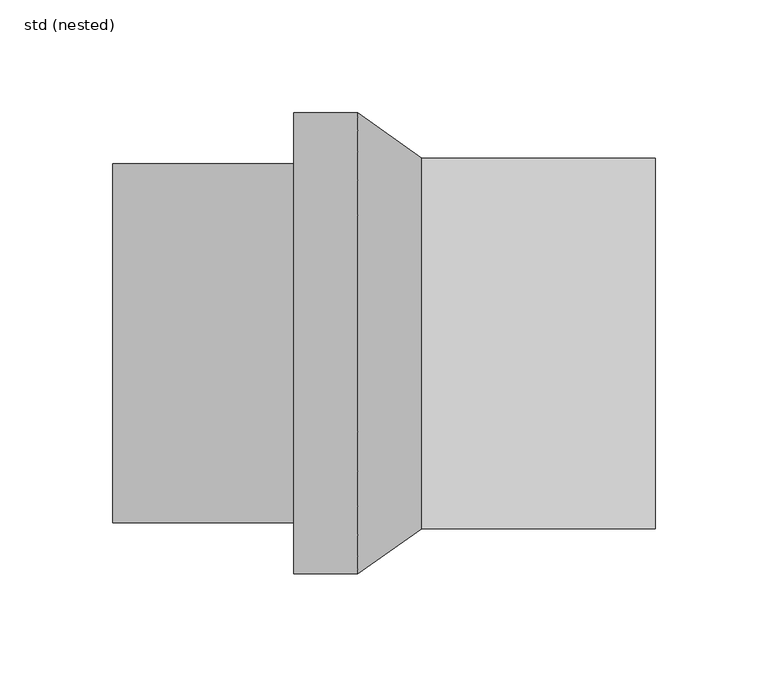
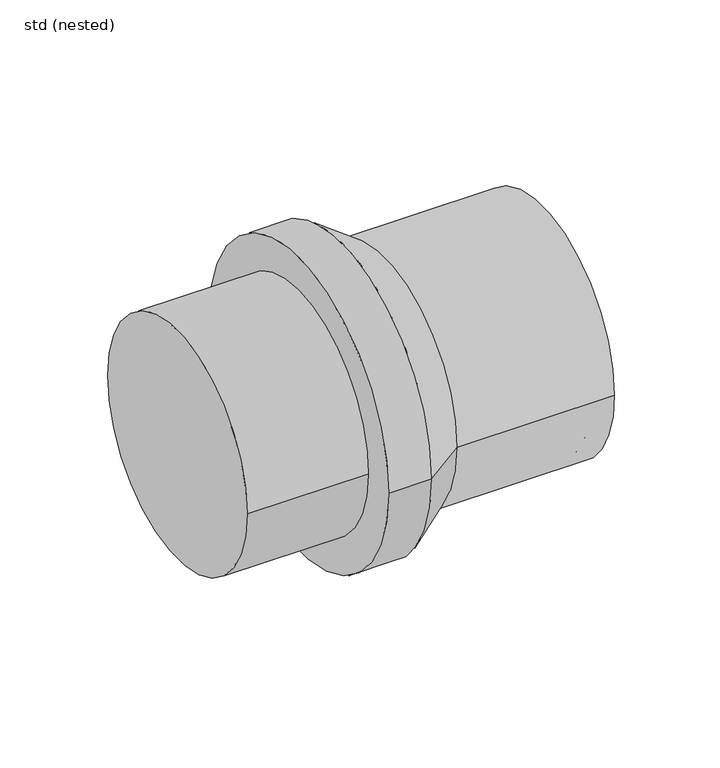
"""IFC4 building model written with IfcOpenShell, lengths in millimetres: pipe fitting geometry, ZZZ_do not use_PIF_ST_WPB_GM-X compound pipe reducer_ACO : std (nested)."""

from ifc_helpers import new_model, si_unit, point, frame, origin, origin_2d, place, context, project, spatial, polyline, circle_curve, trimmed, segment, composite_curve, outline, extrude, source, transform, mapped, element, save
from ifc_brep_helpers import plane_surface, cylinder_surface, revolved_surface, advanced_brep


def std_nested_dd37de27(model_context):
    return source(origin(), model_context, "Body", "SolidModel", [
        advanced_brep(
        [(231.6, 76.0, 0.0), (231.6, -76.0, 0.0), (200.0, -76.0, 0.0), (200.0, 76.0, 0.0), (240.0, -70.0, 0.0), (240.0, 70.0, 0.0), (240.0, 66.5, 0.0), (240.0, -66.5, 0.0), (165.0, -70.0, 0.0), (165.0, 70.0, 0.0), (165.0, -66.5, 0.0), (165.0, 66.5, 0.0), (231.6, -70.0, 0.0), (231.6, 70.0, 0.0), (200.0, 70.0, 0.0), (200.0, -70.0, 0.0)],
        [
            (0, 1, circle_curve(frame((231.6, 0.0, 0.0), z_axis=(-1.0, 0.0, 0.0), x_axis=(0.0, 1.0, 0.0)), 76.0)),
            (1, 2),
            (2, 3, circle_curve(frame((200.0, 0.0, 0.0), z_axis=(1.0, 0.0, 0.0), x_axis=(0.0, 1.0, 0.0)), 76.0)),
            (3, 0),
            (1, 0, circle_curve(frame((231.6, 0.0, 0.0), z_axis=(-1.0, 0.0, 0.0), x_axis=(0.0, 1.0, 0.0)), 76.0)),
            (3, 2, circle_curve(frame((200.0, 0.0, 0.0), z_axis=(1.0, 0.0, 0.0), x_axis=(0.0, 1.0, 0.0)), 76.0)),
            (4, 5, circle_curve(frame((240.0, 0.0, 0.0), z_axis=(1.0, 0.0, 0.0), x_axis=(0.0, 1.0, 0.0)), 70.0)),
            (5, 4, circle_curve(frame((240.0, 0.0, 0.0), z_axis=(1.0, 0.0, 0.0), x_axis=(0.0, 1.0, 0.0)), 70.0)),
            (6, 7, circle_curve(frame((240.0, 0.0, 0.0), z_axis=(-1.0, 0.0, 0.0), x_axis=(0.0, 1.0, 0.0)), 66.5)),
            (7, 6, circle_curve(frame((240.0, 0.0, 0.0), z_axis=(-1.0, 0.0, 0.0), x_axis=(0.0, 1.0, 0.0)), 66.5)),
            (8, 9, circle_curve(frame((165.0, 0.0, 0.0), z_axis=(-1.0, 0.0, 0.0), x_axis=(0.0, 1.0, 0.0)), 70.0)),
            (9, 8, circle_curve(frame((165.0, 0.0, 0.0), z_axis=(-1.0, 0.0, 0.0), x_axis=(0.0, 1.0, 0.0)), 70.0)),
            (10, 11, circle_curve(frame((165.0, 0.0, 0.0), z_axis=(1.0, 0.0, 0.0), x_axis=(0.0, 1.0, 0.0)), 66.5)),
            (11, 10, circle_curve(frame((165.0, 0.0, 0.0), z_axis=(1.0, 0.0, 0.0), x_axis=(0.0, 1.0, 0.0)), 66.5)),
            (4, 12),
            (12, 13, circle_curve(frame((231.6, 0.0, 0.0), z_axis=(1.0, 0.0, 0.0), x_axis=(0.0, 1.0, 0.0)), 70.0)),
            (13, 5),
            (9, 14),
            (14, 15, circle_curve(frame((200.0, 0.0, 0.0), z_axis=(-1.0, 0.0, 0.0), x_axis=(0.0, 1.0, 0.0)), 70.0)),
            (15, 8),
            (13, 12, circle_curve(frame((231.6, 0.0, 0.0), z_axis=(1.0, 0.0, 0.0), x_axis=(0.0, 1.0, 0.0)), 70.0)),
            (15, 14, circle_curve(frame((200.0, 0.0, 0.0), z_axis=(-1.0, 0.0, 0.0), x_axis=(0.0, 1.0, 0.0)), 70.0)),
            (6, 11),
            (10, 7),
        ],
        [
            cylinder_surface(frame((200.0, 0.0, 0.0), z_axis=(1.0, 0.0, 0.0), x_axis=(0.0, 1.0, 0.0)), 76.0),
            plane_surface(frame((240.0, 70.0, 0.0), z_axis=(1.0, 0.0, 0.0), x_axis=(0.0, 0.0, 1.0))),
            plane_surface(frame((165.0, 70.0, 0.0), z_axis=(-1.0, 0.0, 0.0), x_axis=(0.0, 0.0, -1.0))),
            cylinder_surface(frame((165.0, 0.0, 0.0), z_axis=(1.0, 0.0, 0.0), x_axis=(0.0, 1.0, 0.0)), 70.0),
            revolved_surface(polyline([(240.0, 66.5, 0.0), (165.0, 66.5, 0.0)]), (165.0, 0.0, 0.0), (1.0, 0.0, 0.0)),
            plane_surface(frame((231.6, 76.0, 0.0), z_axis=(1.0, 0.0, 0.0), x_axis=(0.0, 0.0, 1.0))),
            plane_surface(frame((200.0, 76.0, 0.0), z_axis=(-1.0, 0.0, 0.0), x_axis=(0.0, 0.0, -1.0))),
        ],
        [
            (0, [[1, 2, 3, 4]]),
            (0, [[5, -4, 6, -2]]),
            (1, [[7, 8], [9, 10]]),
            (2, [[11, 12], [13, 14]]),
            (3, [[-7, 15, 16, 17]]),
            (3, [[-12, 18, 19, 20]]),
            (3, [[-8, -17, 21, -15]]),
            (3, [[-11, -20, 22, -18]]),
            (4, [[23, -13, 24, -9]]),
            (4, [[-23, -10, -24, -14]]),
            (5, [[-1, -5], [-16, -21]]),
            (6, [[-6, -3], [-19, -22]]),
        ],
    ),
        advanced_brep(
        [(240.0, 82.0, 0.0), (240.0, -82.0, 0.0), (240.0, -70.0, 0.0), (240.0, 70.0, 0.0), (136.6666667, 82.0, 0.0), (136.6666667, -82.0, 0.0), (165.0, 70.0, 0.0), (165.0, -70.0, 0.0), (108.3333333, 102.0, 0.0), (108.3333333, -102.0, 0.0), (80.0, -102.0, 0.0), (80.0, 102.0, 0.0)],
        [
            (0, 1, circle_curve(frame((240.0, 0.0, 0.0), z_axis=(1.0, 0.0, 0.0), x_axis=(0.0, -1.0, 0.0)), 82.0)),
            (1, 0, circle_curve(frame((240.0, 0.0, 0.0), z_axis=(1.0, 0.0, 0.0), x_axis=(0.0, -1.0, 0.0)), 82.0)),
            (2, 3, circle_curve(frame((240.0, 0.0, 0.0), z_axis=(-1.0, 0.0, 0.0), x_axis=(0.0, -1.0, 0.0)), 70.0)),
            (3, 2, circle_curve(frame((240.0, 0.0, 0.0), z_axis=(-1.0, 0.0, 0.0), x_axis=(0.0, -1.0, 0.0)), 70.0)),
            (0, 4),
            (4, 5, circle_curve(frame((136.6666667, 0.0, 0.0), z_axis=(1.0, 0.0, 0.0), x_axis=(0.0, -1.0, 0.0)), 82.0)),
            (5, 1),
            (5, 4, circle_curve(frame((136.6666667, 0.0, 0.0), z_axis=(1.0, 0.0, 0.0), x_axis=(0.0, -1.0, 0.0)), 82.0)),
            (6, 7, circle_curve(frame((165.0, 0.0, 0.0), z_axis=(1.0, 0.0, 0.0), x_axis=(0.0, -1.0, 0.0)), 70.0)),
            (7, 6, circle_curve(frame((165.0, 0.0, 0.0), z_axis=(1.0, 0.0, 0.0), x_axis=(0.0, -1.0, 0.0)), 70.0)),
            (6, 3),
            (2, 7),
            (8, 4),
            (5, 9),
            (9, 8, circle_curve(frame((108.3333333, 0.0, 0.0), z_axis=(1.0, 0.0, 0.0), x_axis=(0.0, -1.0, 0.0)), 102.0)),
            (8, 9, circle_curve(frame((108.3333333, 0.0, 0.0), z_axis=(1.0, 0.0, 0.0), x_axis=(0.0, 1.0, 0.0)), 102.0)),
            (10, 11, circle_curve(frame((80.0, 0.0, 0.0), z_axis=(-1.0, 0.0, 0.0), x_axis=(0.0, 1.0, 0.0)), 102.0)),
            (11, 10, circle_curve(frame((80.0, 0.0, 0.0), z_axis=(-1.0, 0.0, 0.0), x_axis=(0.0, 1.0, 0.0)), 102.0)),
            (10, 9),
            (8, 11),
        ],
        [
            plane_surface(frame((240.0, -82.0, 0.0), z_axis=(1.0, 0.0, 0.0), x_axis=(0.0, 0.0, -1.0))),
            cylinder_surface(frame((136.6666667, 0.0, 0.0), z_axis=(1.0, 0.0, 0.0), x_axis=(0.0, -1.0, 0.0)), 82.0),
            plane_surface(frame((165.0, -70.0, 0.0), z_axis=(1.0, 0.0, 0.0), x_axis=(0.0, 0.0, 1.0))),
            revolved_surface(polyline([(240.0, -70.0, 0.0), (165.0, -70.0, 0.0)]), (165.0, 0.0, 0.0), (1.0, 0.0, 0.0)),
            revolved_surface(polyline([(136.6666667, 81.99999995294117, 0.0), (108.33333329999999, 102.0, 0.0)]), (252.8333333, 0.0, 0.0), (-1.0, 0.0, 0.0)),
            plane_surface(frame((80.0, 102.0, 0.0), z_axis=(-1.0, 0.0, 0.0), x_axis=(0.0, 0.0, -1.0))),
            cylinder_surface(frame((108.3333333, 0.0, 0.0), z_axis=(-1.0, 0.0, 0.0), x_axis=(0.0, 1.0, 0.0)), 102.0),
        ],
        [
            (0, [[1, 2], [3, 4]]),
            (1, [[-1, 5, 6, 7]]),
            (1, [[-2, -7, 8, -5]]),
            (2, [[9, 10]]),
            (3, [[-9, 11, -3, 12]]),
            (3, [[-10, -12, -4, -11]]),
            (4, [[13, -8, 14, 15]]),
            (4, [[-13, 16, -14, -6]]),
            (5, [[17, 18]]),
            (6, [[-17, 19, -16, 20]]),
            (6, [[-18, -20, -15, -19]]),
        ],
    ),
        extrude(outline(composite_curve([segment(trimmed(circle_curve(origin_2d(), 79.5), [point((-79.5, 0.0))], [point((79.5, 0.0))], False, "CARTESIAN"), True, "CONTINUOUS"), segment(trimmed(circle_curve(origin_2d(), 79.5), [point((79.5, 0.0))], [point((-79.5, 0.0))], False, "CARTESIAN"), True, "CONTINUOUS")], self_intersect=False)), frame((0.0, 0.0, 0.0), z_axis=(1.0, 0.0, 0.0), x_axis=(0.0, 1.0, 0.0)), (0.0, 0.0, 1.0), 80.0),
    ])


if __name__ == "__main__":
    model = new_model("IFC4")
    model_context = context("Model", 3, world=origin())
    ifc_project = project(units=[si_unit("LENGTHUNIT", "METRE", prefix="MILLI")], contexts=[model_context])
    site = spatial("IfcSite", under=ifc_project)
    building = spatial("IfcBuilding", under=site)
    placement = place(None, origin())
    std_nested_shape = std_nested_dd37de27(model_context)
    element("IfcPipeFitting", 1, ObjectType="ZZZ_do not use_PIF_ST_WPB_GM-X compound pipe reducer_ACO : std (nested)", at=placement, inside=building, context=model_context, shape_type="MappedRepresentation", body=[
        mapped(std_nested_shape, transform((0.0, 0.0, 0.0), x_axis=(1.0, 0.0, 0.0), y_axis=(0.0, 1.0, 0.0), z_axis=(0.0, 0.0, 1.0))),
    ])
    save(model, "model.ifc")
